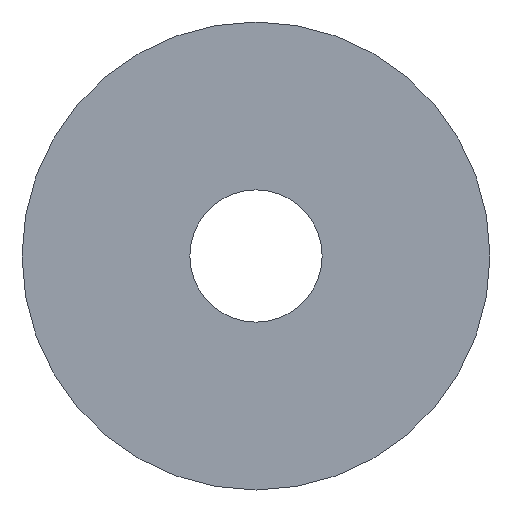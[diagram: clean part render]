
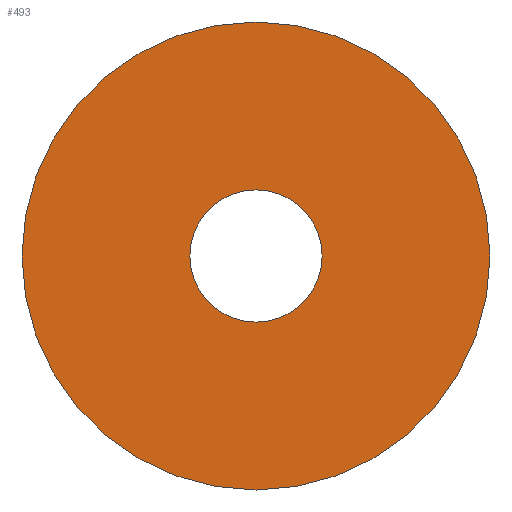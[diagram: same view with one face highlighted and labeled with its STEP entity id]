
A CAD part, front view. The second image highlights one B-rep face of the part: STEP entity #493.
In plain terms, the highlighted planar face has unit normal (0, -1, 0).
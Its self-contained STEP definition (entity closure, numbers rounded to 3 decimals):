
#4 = CARTESIAN_POINT ( 'NONE',  ( 0., 0., 2.825 ) ) ;
#15 = VERTEX_POINT ( 'NONE', #4 ) ;
#22 = VERTEX_POINT ( 'NONE', #43 ) ;
#29 = VERTEX_POINT ( 'NONE', #58 ) ;
#32 = VERTEX_POINT ( 'NONE', #74 ) ;
#35 = DIRECTION ( 'NONE',  ( 0., 0., -1. ) ) ;
#43 = CARTESIAN_POINT ( 'NONE',  ( 0., 0., -2.825 ) ) ;
#58 = CARTESIAN_POINT ( 'NONE',  ( 0., 0., -10. ) ) ;
#74 = CARTESIAN_POINT ( 'NONE',  ( 0., 0., 10. ) ) ;
#82 = CARTESIAN_POINT ( 'NONE',  ( 0., 0., 0. ) ) ;
#84 = DIRECTION ( 'NONE',  ( 0., -1., 0. ) ) ;
#86 = CARTESIAN_POINT ( 'NONE',  ( 0., 0., 0. ) ) ;
#87 = DIRECTION ( 'NONE',  ( 0., 0., -1. ) ) ;
#91 = DIRECTION ( 'NONE',  ( 0., -1., 0. ) ) ;
#92 = DIRECTION ( 'NONE',  ( 0., -1., 0. ) ) ;
#93 = DIRECTION ( 'NONE',  ( 0., 0., -1. ) ) ;
#95 = DIRECTION ( 'NONE',  ( 0., 0., -1. ) ) ;
#111 = DIRECTION ( 'NONE',  ( 0., -1., 0. ) ) ;
#114 = CARTESIAN_POINT ( 'NONE',  ( 0., 0., 0. ) ) ;
#119 = CARTESIAN_POINT ( 'NONE',  ( 0., 0., 0. ) ) ;
#163 = CARTESIAN_POINT ( 'NONE',  ( -2.825, 0., 0. ) ) ;
#171 = PLANE ( 'NONE',  #273 ) ;
#199 = DIRECTION ( 'NONE',  ( 0., 0., 1. ) ) ;
#202 = DIRECTION ( 'NONE',  ( 0., 1., 0. ) ) ;
#229 = AXIS2_PLACEMENT_3D ( 'NONE', #82, #84, #35 ) ;
#234 = AXIS2_PLACEMENT_3D ( 'NONE', #86, #111, #87 ) ;
#240 = EDGE_CURVE ( 'NONE', #22, #15, #440, .T. ) ;
#243 = EDGE_CURVE ( 'NONE', #29, #32, #428, .T. ) ;
#251 = EDGE_CURVE ( 'NONE', #32, #29, #441, .T. ) ;
#253 = EDGE_CURVE ( 'NONE', #15, #22, #424, .T. ) ;
#273 = AXIS2_PLACEMENT_3D ( 'NONE', #163, #202, #199 ) ;
#299 = AXIS2_PLACEMENT_3D ( 'NONE', #114, #92, #93 ) ;
#303 = AXIS2_PLACEMENT_3D ( 'NONE', #119, #91, #95 ) ;
#318 = ORIENTED_EDGE ( 'NONE', *, *, #243, .T. ) ;
#327 = ORIENTED_EDGE ( 'NONE', *, *, #251, .T. ) ;
#341 = EDGE_LOOP ( 'NONE', ( #397, #362 ) ) ;
#344 = EDGE_LOOP ( 'NONE', ( #318, #327 ) ) ;
#362 = ORIENTED_EDGE ( 'NONE', *, *, #253, .F. ) ;
#397 = ORIENTED_EDGE ( 'NONE', *, *, #240, .F. ) ;
#424 = CIRCLE ( 'NONE', #303, 2.825 ) ;
#428 = CIRCLE ( 'NONE', #234, 10. ) ;
#440 = CIRCLE ( 'NONE', #229, 2.825 ) ;
#441 = CIRCLE ( 'NONE', #299, 10. ) ;
#473 = FACE_BOUND ( 'NONE', #341, .T. ) ;
#477 = FACE_OUTER_BOUND ( 'NONE', #344, .T. ) ;
#493 = ADVANCED_FACE ( 'NONE', ( #473, #477 ), #171, .F. ) ;
